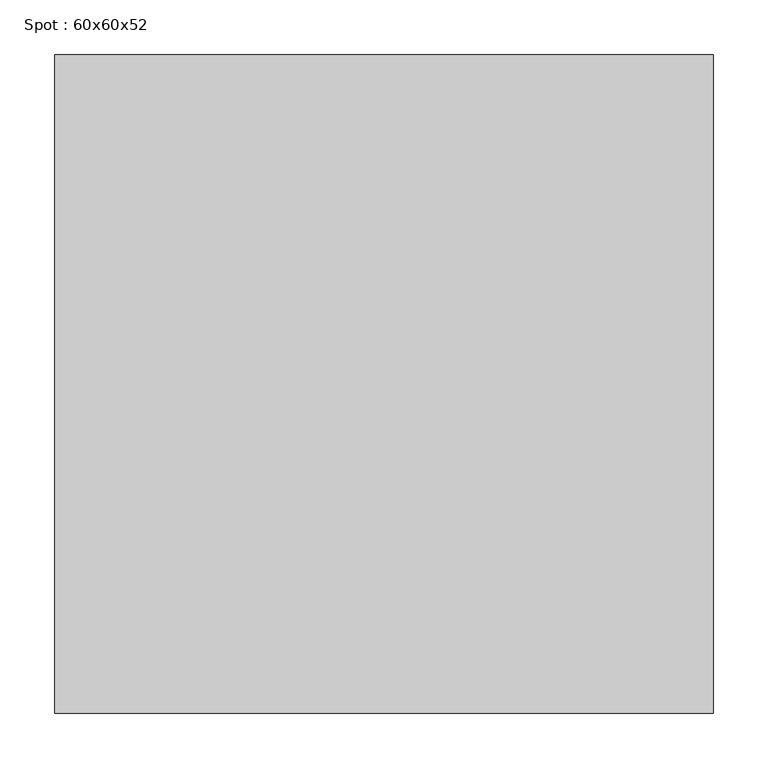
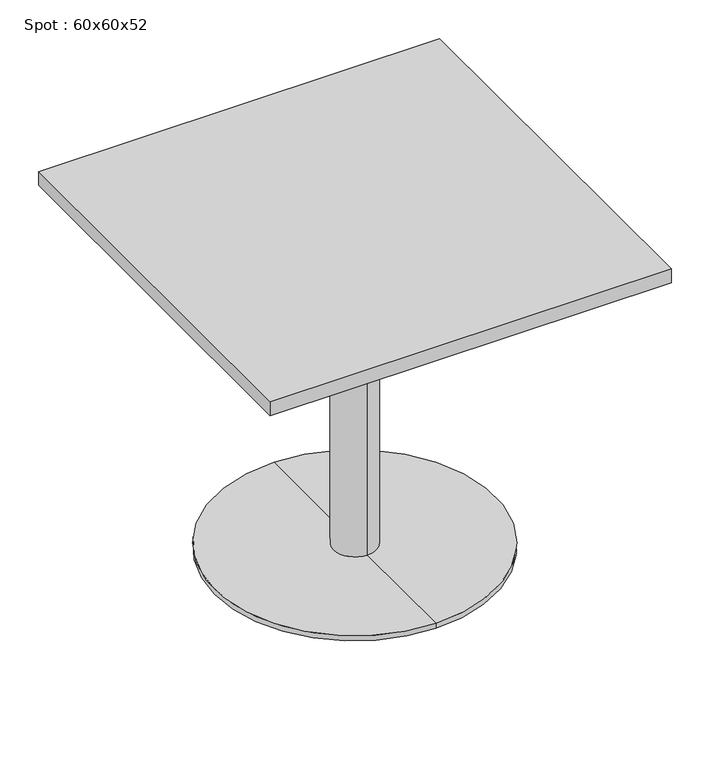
"""IFC4 building model written with IfcOpenShell, lengths in millimetres: furniture geometry, Spot : 60x60x52."""

from ifc_helpers import new_model, si_unit, frame, origin, place, context, project, spatial, polyline, circle_curve, outline, extrude, source, transform, mapped, element, save
from ifc_brep_helpers import plane_surface, cylinder_surface, revolved_surface, advanced_brep


def spot_60x60x52_7f1a1400(model_context):
    return source(origin(), model_context, "Body", "SolidModel", [
        extrude(outline(polyline([(300.0, 300.0), (300.0, -300.0), (-300.0, -300.0), (-300.0, 300.0), (300.0, 300.0)])), frame((0.0, 0.0, 498.0), z_axis=(0.0, 0.0, 1.0), x_axis=(1.0, 0.0, 0.0)), (0.0, 0.0, 1.0), 22.0),
        advanced_brep(
        [(0.0, 32.0, 10.0), (0.0, -32.0, 10.0), (0.0, -32.0, 467.406916), (0.0, 32.0, 467.406916), (0.0, 210.0, 10.0), (0.0, -210.0, 10.0), (0.0, 210.0, 2.0), (0.0, -210.0, 2.0), (0.0, 0.0, 2.0), (0.0, 150.0, 498.0), (0.0, -150.0, 498.0), (0.0, 0.0, 498.0), (0.0, 150.0, 486.7213673), (0.0, -150.0, 486.7213673)],
        [
            (0, 1, circle_curve(frame((0.0, 0.0, 10.0), z_axis=(0.0, 0.0, 1.0), x_axis=(0.0, -1.0, 0.0)), 32.0)),
            (1, 2),
            (2, 3, circle_curve(frame((0.0, 0.0, 467.406916), z_axis=(0.0, 0.0, -1.0), x_axis=(0.0, -1.0, 0.0)), 32.0)),
            (3, 0),
            (1, 0, circle_curve(frame((0.0, 0.0, 10.0), z_axis=(0.0, 0.0, 1.0), x_axis=(0.0, -1.0, 0.0)), 32.0)),
            (3, 2, circle_curve(frame((0.0, 0.0, 467.406916), z_axis=(0.0, 0.0, -1.0), x_axis=(0.0, -1.0, 0.0)), 32.0)),
            (4, 5, circle_curve(frame((0.0, 0.0, 10.0), z_axis=(0.0, 0.0, 1.0), x_axis=(0.0, -1.0, 0.0)), 210.0)),
            (5, 1),
            (0, 4),
            (5, 4, circle_curve(frame((0.0, 0.0, 10.0), z_axis=(0.0, 0.0, 1.0), x_axis=(0.0, -1.0, 0.0)), 210.0)),
            (6, 7, circle_curve(frame((0.0, 0.0, 2.0), z_axis=(0.0, 0.0, 1.0), x_axis=(0.0, -1.0, 0.0)), 210.0)),
            (7, 5),
            (4, 6),
            (7, 6, circle_curve(frame((0.0, 0.0, 2.0), z_axis=(0.0, 0.0, 1.0), x_axis=(0.0, -1.0, 0.0)), 210.0)),
            (8, 7),
            (6, 8),
            (9, 10, circle_curve(frame((0.0, 0.0, 498.0), z_axis=(0.0, 0.0, 1.0), x_axis=(0.0, -1.0, 0.0)), 150.0)),
            (10, 11),
            (11, 9),
            (10, 9, circle_curve(frame((0.0, 0.0, 498.0), z_axis=(0.0, 0.0, 1.0), x_axis=(0.0, -1.0, 0.0)), 150.0)),
            (12, 13, circle_curve(frame((0.0, 0.0, 486.7213673), z_axis=(0.0, 0.0, 1.0), x_axis=(0.0, -1.0, 0.0)), 150.0)),
            (13, 10),
            (9, 12),
            (13, 12, circle_curve(frame((0.0, 0.0, 486.7213673), z_axis=(0.0, 0.0, 1.0), x_axis=(0.0, -1.0, 0.0)), 150.0)),
            (2, 13),
            (12, 3),
        ],
        [
            cylinder_surface(frame((0.0, 0.0, 860.0), z_axis=(0.0, 0.0, -1.0), x_axis=(0.0, -1.0, 0.0)), 32.0),
            plane_surface(frame((0.0, 0.0, 10.0), z_axis=(0.0, 0.0, 1.0), x_axis=(0.0, -1.0, 0.0))),
            cylinder_surface(frame((0.0, 0.0, 860.0), z_axis=(0.0, 0.0, -1.0), x_axis=(0.0, -1.0, 0.0)), 210.0),
            plane_surface(frame((0.0, 0.0, 2.0), z_axis=(0.0, 0.0, -1.0), x_axis=(0.0, -1.0, 0.0))),
            plane_surface(frame((0.0, 0.0, 498.0), z_axis=(0.0, 0.0, 1.0), x_axis=(0.0, -1.0, 0.0))),
            cylinder_surface(frame((0.0, 0.0, 860.0), z_axis=(0.0, 0.0, -1.0), x_axis=(0.0, -1.0, 0.0)), 150.0),
            revolved_surface(polyline([(0.0, -150.0, 486.7213673), (0.0, -32.0, 467.406916)]), (0.0, 0.0, 860.0), (0.0, 0.0, -1.0)),
        ],
        [
            (0, [[1, 2, 3, 4]]),
            (0, [[5, -4, 6, -2]]),
            (1, [[7, 8, -1, 9]]),
            (1, [[10, -9, -5, -8]]),
            (2, [[11, 12, -7, 13]]),
            (2, [[14, -13, -10, -12]]),
            (3, [[15, -11, 16]]),
            (3, [[-16, -14, -15]]),
            (4, [[17, 18, 19]]),
            (4, [[20, -19, -18]]),
            (5, [[21, 22, -17, 23]]),
            (5, [[24, -23, -20, -22]]),
            (6, [[-3, 25, -21, 26]]),
            (6, [[-6, -26, -24, -25]]),
        ],
    ),
    ])


if __name__ == "__main__":
    model = new_model("IFC4")
    model_context = context("Model", 3, world=origin())
    ifc_project = project(units=[si_unit("LENGTHUNIT", "METRE", prefix="MILLI")], contexts=[model_context])
    site = spatial("IfcSite", under=ifc_project)
    building = spatial("IfcBuilding", under=site)
    placement = place(None, origin())
    spot_60x60x52_shape = spot_60x60x52_7f1a1400(model_context)
    element("IfcFurniture", 1, ObjectType="Spot : 60x60x52", at=placement, inside=building, context=model_context, shape_type="MappedRepresentation", body=[
        mapped(spot_60x60x52_shape, transform((0.0, 0.0, 0.0), x_axis=(1.0, 0.0, 0.0), y_axis=(0.0, 1.0, 0.0), z_axis=(0.0, 0.0, 1.0))),
    ])
    save(model, "model.ifc")
